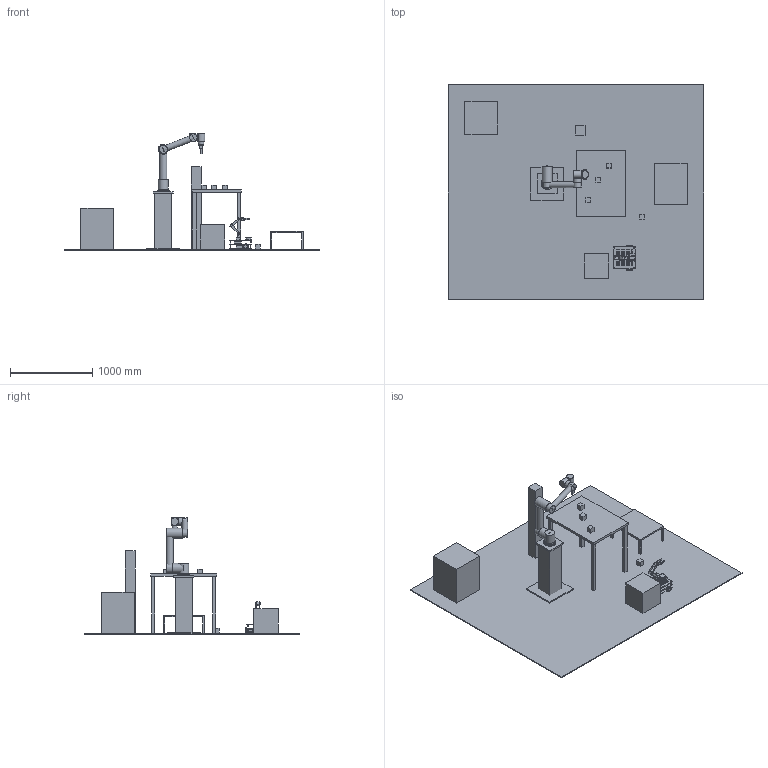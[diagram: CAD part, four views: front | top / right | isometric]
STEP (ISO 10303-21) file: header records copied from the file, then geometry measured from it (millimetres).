
FILE_DESCRIPTION(('Open CASCADE Model'),'2;1');
FILE_NAME('Open CASCADE Shape Model','2026-10-10T15:34:58',('Author'),( 'Open CASCADE'),'Open CASCADE STEP processor 7.9','Open CASCADE 7.9' ,'Unknown');
FILE_SCHEMA(('AUTOMOTIVE_DESIGN { 1 0 10303 214 1 1 1 1 }'));
Length unit declared in the file: millimetre
Products named in the file (96): Material_Handling_Cell; floor; UR5; pedestal_link; pedestal_column; pedestal_top_plate; pedestal_foot_plate; base_link; ur5_base_flange; ur5_base_housing; shoulder_link; ur5_shoulder_pan_motor; ur5_shoulder_lift_motor; upper_arm_link; ur5_upper_arm_lift_cap; ur5_upper_arm_tube; ur5_elbow_motor; forearm_link; ur5_forearm_elbow_cap; ur5_forearm_tube; ur5_wrist_1_motor; wrist_1_link; ur5_wrist_1_cap; ur5_wrist_2_motor; wrist_2_link; ur5_wrist_2_cap; ur5_wrist_3_motor; wrist_3_link; ur5_tool_flange; gripper_base_link; gripper_adapter; gripper_body; gripper_left_finger; gripper_finger_left; gripper_right_finger; gripper_finger_right; TB3_OpenManipulatorX; waffle_plate_bottom; waffle_plate_middle; waffle_plate_top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
Assembly tree (95 placements, depth 4):
  Material_Handling_Cell
    floor
    UR5
      pedestal_link
        pedestal_column
        pedestal_top_plate
        pedestal_foot_plate
      base_link
        ur5_base_flange
        ur5_base_housing
      shoulder_link
        ur5_shoulder_pan_motor
        ur5_shoulder_lift_motor
      upper_arm_link
        ur5_upper_arm_lift_cap
        ur5_upper_arm_tube
        ur5_elbow_motor
      forearm_link
        ur5_forearm_elbow_cap
        ur5_forearm_tube
        ur5_wrist_1_motor
      wrist_1_link
        ur5_wrist_1_cap
        ur5_wrist_2_motor
      wrist_2_link
        ur5_wrist_2_cap
        ur5_wrist_3_motor
      wrist_3_link
        ur5_tool_flange
      gripper_base_link
        gripper_adapter
        gripper_body
      gripper_left_finger
        gripper_finger_left
      gripper_right_finger
        gripper_finger_right
    TB3_OpenManipulatorX
      base_link
        waffle_plate_bottom
        waffle_plate_middle
        waffle_plate_top
        standoffs_x4
        wheel_motor_left_xm430
        wheel_motor_right_xm430
        lipo_battery
        opencr_board
        raspberry_pi
      wheel_left_link
        tire_left
        wheel_hub_left
      wheel_right_link
        tire_right
        wheel_hub_right
      caster_back_left_link
        ball_caster_holder_left
        ball_caster_ball_left
      caster_back_right_link
        ball_caster_holder_right
        ball_caster_ball_right
      base_scan
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Bounding box: 3100 x 2600 x 1411.04 mm (x, y, z)
Volume: 271694185 mm3; surface area: 23045929.9 mm2
Topology: 71 solids, 71 shells, 963 faces, 2451 edges, 1634 vertices
Faces by surface type: plane 918, cylinder 43, sphere 2
Full cylindrical faces by diameter (mm): 7 x4, 18 x2, 22 x4, 40 x2, 64 x2, 66 x2, 68 x1, 72 x1, 88 x1, 90 x5, 100 x1, 120 x5, 149 x1
Entity records: 60658 total; most frequent: CARTESIAN_POINT 12384, DIRECTION 7186, ORIENTED_EDGE 4890, PCURVE 4890, DEFINITIONAL_REPRESENTATION 4890, LINE 4811, VECTOR 4811, EDGE_CURVE 2445
